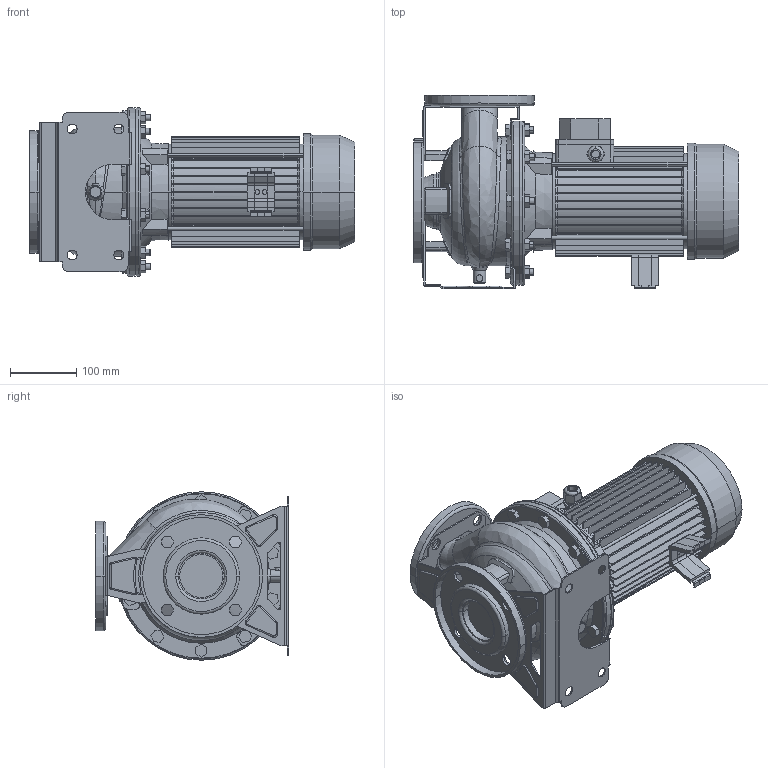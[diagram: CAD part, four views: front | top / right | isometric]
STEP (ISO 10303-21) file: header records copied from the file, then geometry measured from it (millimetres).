
FILE_DESCRIPTION((''),'2;1');
FILE_NAME('3M_50-125_3_IE2_ASM','2011-04-22T',('Utente'),('"Ebara Pumps Europe +39.444.706811"'),'PRO/ENGINEER BY PARAMETRIC TECHNOLOGY CORPORATION, 2009360','PRO/ENGINEER BY PARAMETRIC TECHNOLOGY CORPORATION, 2009360','');
FILE_SCHEMA(('AUTOMOTIVE_DESIGN { 1 0 10303 214 1 1 1 1 }'));
Length unit declared in the file: millimetre
Products named in the file (11): CORPO_50-125; ASP_50-125; FLANGIA_DIN_65; MAND_50-125; FLANGIA_DIN_50; BASE_3M_50-125; CORPO_SALDATO_50-125_ASM; SUPPORTO_3M_190_90; MEC_90X140_IE2; SOSTEGNO_72004; 3M_50-125_3_IE2_ASM
Assembly tree (11 placements, depth 3):
  3M_50-125_3_IE2_ASM
    CORPO_SALDATO_50-125_ASM
      CORPO_50-125
      ASP_50-125
      FLANGIA_DIN_65
      MAND_50-125
      FLANGIA_DIN_50
      BASE_3M_50-125
    SUPPORTO_3M_190_90
    MEC_90X140_IE2
    SOSTEGNO_72004  x2
Bounding box: 491 x 292 x 254 mm (x, y, z)
Volume: 8311317 mm3; surface area: 1163315.4 mm2
Topology: 13 solids, 13 shells, 1094 faces, 2800 edges, 1789 vertices
Faces by surface type: plane 586, cylinder 313, cone 94, torus 60, bspline 35, sphere 6
Entity records: 42098 total; most frequent: CARTESIAN_POINT 9817, DIRECTION 5546, ORIENTED_EDGE 5432, EDGE_CURVE 2716, AXIS2_PLACEMENT_3D 2020, VERTEX_POINT 1733, VECTOR 1506, LINE 1506
